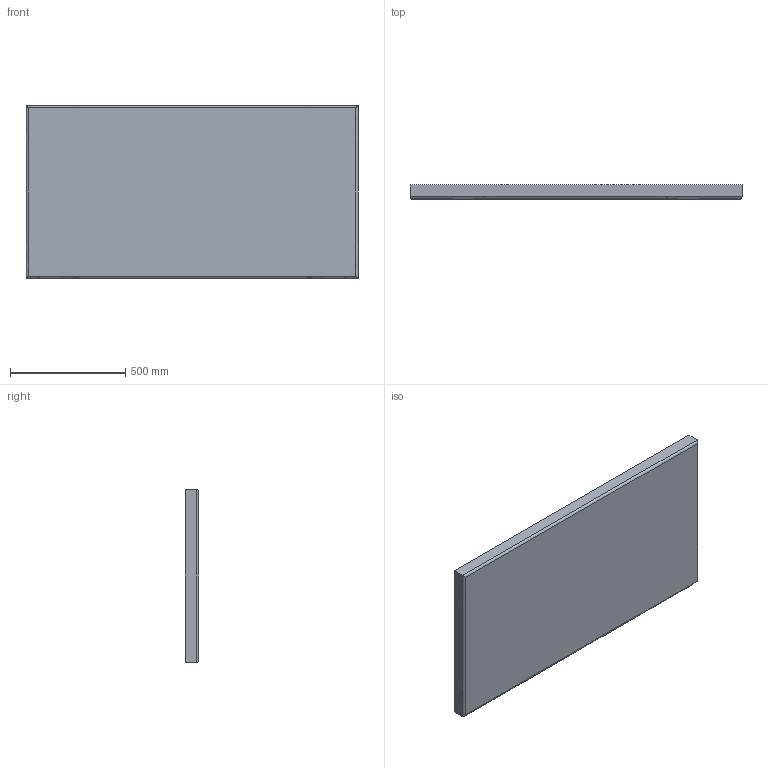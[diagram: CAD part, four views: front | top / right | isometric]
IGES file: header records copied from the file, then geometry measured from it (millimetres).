
Start section: SolidWorks IGES file using NURBS representation for surfaces
Global section: file name: D:\VICCARBE\PRODUCTOS\19-MASS\04-MODELADOS (PLANOS)\SOLIDWORKS\PIEZAS\Bases\01-IGES\VICCARBE_Mass_base_144.IGS; native system: SolidWorks 2009; preprocessor: SolidWorks 2009; author: RUBEN; date: 110908.162055; units: millimetre
Bounding box: 1440 x 60 x 750 mm (x, y, z)
Surface area: 2403944.2 mm2 (no closed solid volume)
Topology: 0 solids, 0 shells, 10 faces, 136 edges, 136 vertices
Faces by surface type: bspline 10
